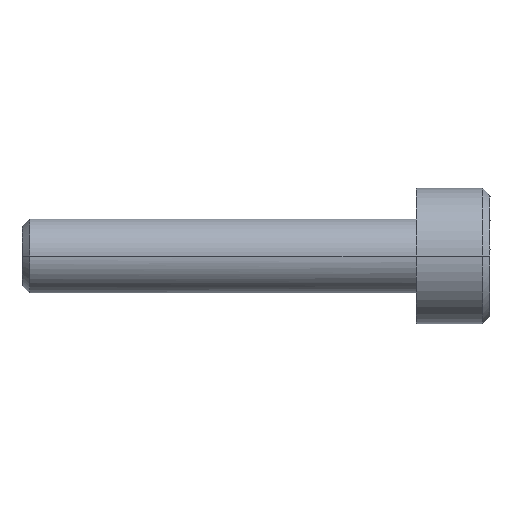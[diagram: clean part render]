
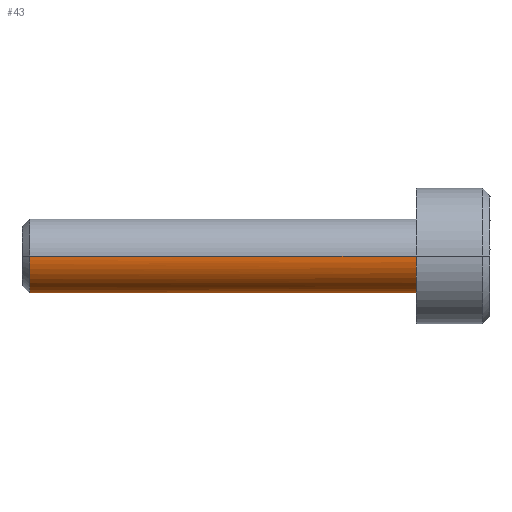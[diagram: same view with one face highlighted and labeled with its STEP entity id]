
A CAD part, front view. The second image highlights one B-rep face of the part: STEP entity #43.
In plain terms, the highlighted free-form (B-spline) face has degree [1, 2] with [2, 9] control points.
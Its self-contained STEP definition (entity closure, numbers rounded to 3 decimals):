
#43=ADVANCED_FACE('',(#93),#1481,.T.);
#93=FACE_OUTER_BOUND('',#143,.T.);
#143=EDGE_LOOP('',(#203,#204,#205,#206));
#203=ORIENTED_EDGE('',*,*,#1210,.T.);
#204=ORIENTED_EDGE('',*,*,#1211,.T.);
#205=ORIENTED_EDGE('',*,*,#1212,.T.);
#206=ORIENTED_EDGE('',*,*,#1213,.T.);
#419=PCURVE('',#1481,#635);
#420=PCURVE('',#1481,#636);
#421=PCURVE('',#1481,#637);
#422=PCURVE('',#1481,#638);
#423=PCURVE('',#1482,#639);
#496=PCURVE('',#1486,#712);
#498=PCURVE('',#1486,#714);
#501=PCURVE('',#1462,#717);
#635=DEFINITIONAL_REPRESENTATION('',(#855),#2838);
#636=DEFINITIONAL_REPRESENTATION('',(#857),#2838);
#637=DEFINITIONAL_REPRESENTATION('',(#858),#2838);
#638=DEFINITIONAL_REPRESENTATION('',(#860),#2838);
#639=DEFINITIONAL_REPRESENTATION('',(#861),#2838);
#712=DEFINITIONAL_REPRESENTATION('',(#952),#2838);
#714=DEFINITIONAL_REPRESENTATION('',(#954),#2838);
#717=DEFINITIONAL_REPRESENTATION('',(#1341),#2838);
#855=B_SPLINE_CURVE_WITH_KNOTS('',1,(#1854,#1855),.UNSPECIFIED.,.F.,.F.,
(2,2),(0.,4.712),.UNSPECIFIED.);
#856=B_SPLINE_CURVE_WITH_KNOTS('',1,(#1856,#1857),.UNSPECIFIED.,.F.,.F.,
(2,2),(0.,15.694),.UNSPECIFIED.);
#857=B_SPLINE_CURVE_WITH_KNOTS('',1,(#1858,#1859),.UNSPECIFIED.,.F.,.F.,
(2,2),(0.,15.694),.UNSPECIFIED.);
#858=B_SPLINE_CURVE_WITH_KNOTS('',1,(#1865,#1866),.UNSPECIFIED.,.F.,.F.,
(2,2),(-4.712,0.),.UNSPECIFIED.);
#859=B_SPLINE_CURVE_WITH_KNOTS('',1,(#1867,#1868),.UNSPECIFIED.,.F.,.F.,
(2,2),(0.,15.694),.UNSPECIFIED.);
#860=B_SPLINE_CURVE_WITH_KNOTS('',1,(#1869,#1870),.UNSPECIFIED.,.F.,.F.,
(2,2),(0.,15.694),.UNSPECIFIED.);
#861=B_SPLINE_CURVE_WITH_KNOTS('',1,(#1871,#1872),.UNSPECIFIED.,.F.,.F.,
(2,2),(-4.712,0.),.UNSPECIFIED.);
#952=B_SPLINE_CURVE_WITH_KNOTS('',1,(#2126,#2127),.UNSPECIFIED.,.F.,.F.,
(2,2),(0.,15.694),.UNSPECIFIED.);
#954=B_SPLINE_CURVE_WITH_KNOTS('',1,(#2135,#2136),.UNSPECIFIED.,.F.,.F.,
(2,2),(0.,15.694),.UNSPECIFIED.);
#1102=SURFACE_CURVE('',#1314,(#419,#501),.PCURVE_S1.);
#1103=SURFACE_CURVE('',#856,(#420,#496),.PCURVE_S1.);
#1104=SURFACE_CURVE('',#1315,(#421,#423),.PCURVE_S1.);
#1105=SURFACE_CURVE('',#859,(#422,#498),.PCURVE_S1.);
#1210=EDGE_CURVE('',#1389,#1392,#1102,.T.);
#1211=EDGE_CURVE('',#1392,#1391,#1103,.T.);
#1212=EDGE_CURVE('',#1391,#1390,#1104,.T.);
#1213=EDGE_CURVE('',#1390,#1389,#1105,.T.);
#1314=(
BOUNDED_CURVE()
B_SPLINE_CURVE(2,(#1849,#1850,#1851,#1852,#1853),.UNSPECIFIED.,.F.,.F.)
B_SPLINE_CURVE_WITH_KNOTS((3,2,3),(0.,2.356,4.712),
 .UNSPECIFIED.)
CURVE()
GEOMETRIC_REPRESENTATION_ITEM()
RATIONAL_B_SPLINE_CURVE((1.,0.707,1.,0.707,1.))
REPRESENTATION_ITEM('')
);
#1315=(
BOUNDED_CURVE()
B_SPLINE_CURVE(2,(#1860,#1861,#1862,#1863,#1864),.UNSPECIFIED.,.F.,.F.)
B_SPLINE_CURVE_WITH_KNOTS((3,2,3),(-4.712,-2.356,0.),
 .UNSPECIFIED.)
CURVE()
GEOMETRIC_REPRESENTATION_ITEM()
RATIONAL_B_SPLINE_CURVE((1.,0.707,1.,0.707,1.))
REPRESENTATION_ITEM('')
);
#1341=(
BOUNDED_CURVE()
B_SPLINE_CURVE(2,(#2152,#2153,#2154,#2155,#2156),.UNSPECIFIED.,.F.,.F.)
B_SPLINE_CURVE_WITH_KNOTS((3,2,3),(0.,2.356,4.712),
 .UNSPECIFIED.)
CURVE()
GEOMETRIC_REPRESENTATION_ITEM()
RATIONAL_B_SPLINE_CURVE((1.,0.707,1.,0.707,1.))
REPRESENTATION_ITEM('')
);
#1389=VERTEX_POINT('',#1783);
#1390=VERTEX_POINT('',#1784);
#1391=VERTEX_POINT('',#1785);
#1392=VERTEX_POINT('',#1786);
#1462=PLANE('',#1532);
#1481=(
BOUNDED_SURFACE()
B_SPLINE_SURFACE(1,2,((#1618,#1619,#1620,#1621,#1622,#1623,#1624,#1625,#1626),
(#1627,#1628,#1629,#1630,#1631,#1632,#1633,#1634,#1635)),.UNSPECIFIED.,.F.,
 .F.,.F.)
B_SPLINE_SURFACE_WITH_KNOTS((2,2),(3,2,2,2,3),(0.,18.835),(0.,1.571,
3.142,4.712,6.283),.UNSPECIFIED.)
GEOMETRIC_REPRESENTATION_ITEM()
RATIONAL_B_SPLINE_SURFACE(((1.,0.707,1.,0.707,1.,
0.707,1.,0.707,1.),(1.,0.707,1.,0.707,
1.,0.707,1.,0.707,1.)))
REPRESENTATION_ITEM('')
SURFACE()
);
#1482=(
BOUNDED_SURFACE()
B_SPLINE_SURFACE(1,2,((#1636,#1637,#1638,#1639,#1640,#1641,#1642,#1643,#1644),
(#1645,#1646,#1647,#1648,#1649,#1650,#1651,#1652,#1653)),.UNSPECIFIED.,.F.,
 .F.,.F.)
B_SPLINE_SURFACE_WITH_KNOTS((2,2),(3,2,2,2,3),(0.,2.335),(0.,
1.571,3.142,4.712,6.283),
 .UNSPECIFIED.)
GEOMETRIC_REPRESENTATION_ITEM()
RATIONAL_B_SPLINE_SURFACE(((1.,0.707,1.,0.707,1.,
0.707,1.,0.707,1.),(1.,0.707,1.,0.707,
1.,0.707,1.,0.707,1.)))
REPRESENTATION_ITEM('')
SURFACE()
);
#1486=(
BOUNDED_SURFACE()
B_SPLINE_SURFACE(1,2,((#1721,#1722,#1723,#1724,#1725,#1726,#1727,#1728,#1729),
(#1730,#1731,#1732,#1733,#1734,#1735,#1736,#1737,#1738)),.UNSPECIFIED.,.F.,
 .F.,.F.)
B_SPLINE_SURFACE_WITH_KNOTS((2,2),(3,2,2,2,3),(0.,18.835),(0.,1.571,
3.142,4.712,6.283),.UNSPECIFIED.)
GEOMETRIC_REPRESENTATION_ITEM()
RATIONAL_B_SPLINE_SURFACE(((1.,0.707,1.,0.707,1.,
0.707,1.,0.707,1.),(1.,0.707,1.,0.707,
1.,0.707,1.,0.707,1.)))
REPRESENTATION_ITEM('')
SURFACE()
);
#1532=AXIS2_PLACEMENT_3D('',#1739,#1564,$);
#1564=DIRECTION('',(1.,0.,0.));
#1618=CARTESIAN_POINT('',(828.171,489.,-78.5));
#1619=CARTESIAN_POINT('',(828.171,490.5,-78.5));
#1620=CARTESIAN_POINT('',(828.171,490.5,-80.));
#1621=CARTESIAN_POINT('',(828.171,490.5,-81.5));
#1622=CARTESIAN_POINT('',(828.171,489.,-81.5));
#1623=CARTESIAN_POINT('',(828.171,487.5,-81.5));
#1624=CARTESIAN_POINT('',(828.171,487.5,-80.));
#1625=CARTESIAN_POINT('',(828.171,487.5,-78.5));
#1626=CARTESIAN_POINT('',(828.171,489.,-78.5));
#1627=CARTESIAN_POINT('',(809.336,489.,-78.5));
#1628=CARTESIAN_POINT('',(809.336,490.5,-78.5));
#1629=CARTESIAN_POINT('',(809.336,490.5,-80.));
#1630=CARTESIAN_POINT('',(809.336,490.5,-81.5));
#1631=CARTESIAN_POINT('',(809.336,489.,-81.5));
#1632=CARTESIAN_POINT('',(809.336,487.5,-81.5));
#1633=CARTESIAN_POINT('',(809.336,487.5,-80.));
#1634=CARTESIAN_POINT('',(809.336,487.5,-78.5));
#1635=CARTESIAN_POINT('',(809.336,489.,-78.5));
#1636=CARTESIAN_POINT('',(809.407,489.,-80.));
#1637=CARTESIAN_POINT('',(809.407,489.,-80.));
#1638=CARTESIAN_POINT('',(809.407,489.,-80.));
#1639=CARTESIAN_POINT('',(809.407,489.,-80.));
#1640=CARTESIAN_POINT('',(809.407,489.,-80.));
#1641=CARTESIAN_POINT('',(809.407,489.,-80.));
#1642=CARTESIAN_POINT('',(809.407,489.,-80.));
#1643=CARTESIAN_POINT('',(809.407,489.,-80.));
#1644=CARTESIAN_POINT('',(809.407,489.,-80.));
#1645=CARTESIAN_POINT('',(811.058,489.,-78.349));
#1646=CARTESIAN_POINT('',(811.058,487.349,-78.349));
#1647=CARTESIAN_POINT('',(811.058,487.349,-80.));
#1648=CARTESIAN_POINT('',(811.058,487.349,-81.651));
#1649=CARTESIAN_POINT('',(811.058,489.,-81.651));
#1650=CARTESIAN_POINT('',(811.058,490.651,-81.651));
#1651=CARTESIAN_POINT('',(811.058,490.651,-80.));
#1652=CARTESIAN_POINT('',(811.058,490.651,-78.349));
#1653=CARTESIAN_POINT('',(811.058,489.,-78.349));
#1721=CARTESIAN_POINT('',(828.171,489.,-81.5));
#1722=CARTESIAN_POINT('',(828.171,487.5,-81.5));
#1723=CARTESIAN_POINT('',(828.171,487.5,-80.));
#1724=CARTESIAN_POINT('',(828.171,487.5,-78.5));
#1725=CARTESIAN_POINT('',(828.171,489.,-78.5));
#1726=CARTESIAN_POINT('',(828.171,490.5,-78.5));
#1727=CARTESIAN_POINT('',(828.171,490.5,-80.));
#1728=CARTESIAN_POINT('',(828.171,490.5,-81.5));
#1729=CARTESIAN_POINT('',(828.171,489.,-81.5));
#1730=CARTESIAN_POINT('',(809.336,489.,-81.5));
#1731=CARTESIAN_POINT('',(809.336,487.5,-81.5));
#1732=CARTESIAN_POINT('',(809.336,487.5,-80.));
#1733=CARTESIAN_POINT('',(809.336,487.5,-78.5));
#1734=CARTESIAN_POINT('',(809.336,489.,-78.5));
#1735=CARTESIAN_POINT('',(809.336,490.5,-78.5));
#1736=CARTESIAN_POINT('',(809.336,490.5,-80.));
#1737=CARTESIAN_POINT('',(809.336,490.5,-81.5));
#1738=CARTESIAN_POINT('',(809.336,489.,-81.5));
#1739=CARTESIAN_POINT('',(826.6,485.699,-76.699));
#1783=CARTESIAN_POINT('',(826.6,487.5,-80.));
#1784=CARTESIAN_POINT('',(810.907,487.5,-80.));
#1785=CARTESIAN_POINT('',(810.907,490.5,-80.));
#1786=CARTESIAN_POINT('',(826.6,490.5,-80.));
#1849=CARTESIAN_POINT('',(826.6,487.5,-80.));
#1850=CARTESIAN_POINT('',(826.6,487.5,-81.5));
#1851=CARTESIAN_POINT('',(826.6,489.,-81.5));
#1852=CARTESIAN_POINT('',(826.6,490.5,-81.5));
#1853=CARTESIAN_POINT('',(826.6,490.5,-80.));
#1854=CARTESIAN_POINT('',(1.571,4.712));
#1855=CARTESIAN_POINT('',(1.571,1.571));
#1856=CARTESIAN_POINT('',(826.6,490.5,-80.));
#1857=CARTESIAN_POINT('',(810.907,490.5,-80.));
#1858=CARTESIAN_POINT('',(1.571,1.571));
#1859=CARTESIAN_POINT('',(17.264,1.571));
#1860=CARTESIAN_POINT('',(810.907,490.5,-80.));
#1861=CARTESIAN_POINT('',(810.907,490.5,-81.5));
#1862=CARTESIAN_POINT('',(810.907,489.,-81.5));
#1863=CARTESIAN_POINT('',(810.907,487.5,-81.5));
#1864=CARTESIAN_POINT('',(810.907,487.5,-80.));
#1865=CARTESIAN_POINT('',(17.264,1.571));
#1866=CARTESIAN_POINT('',(17.264,4.712));
#1867=CARTESIAN_POINT('',(810.907,487.5,-80.));
#1868=CARTESIAN_POINT('',(826.6,487.5,-80.));
#1869=CARTESIAN_POINT('',(17.264,4.712));
#1870=CARTESIAN_POINT('',(1.571,4.712));
#1871=CARTESIAN_POINT('',(2.121,4.712));
#1872=CARTESIAN_POINT('',(2.121,1.571));
#2126=CARTESIAN_POINT('',(1.571,4.712));
#2127=CARTESIAN_POINT('',(17.264,4.712));
#2135=CARTESIAN_POINT('',(17.264,1.571));
#2136=CARTESIAN_POINT('',(1.571,1.571));
#2152=CARTESIAN_POINT('',(0.,0.625));
#2153=CARTESIAN_POINT('',(1.5,0.625));
#2154=CARTESIAN_POINT('',(1.5,2.125));
#2155=CARTESIAN_POINT('',(1.5,3.625));
#2156=CARTESIAN_POINT('',(0.,3.625));
#2838=(
GEOMETRIC_REPRESENTATION_CONTEXT(2)
PARAMETRIC_REPRESENTATION_CONTEXT()
REPRESENTATION_CONTEXT('pspace','')
);
